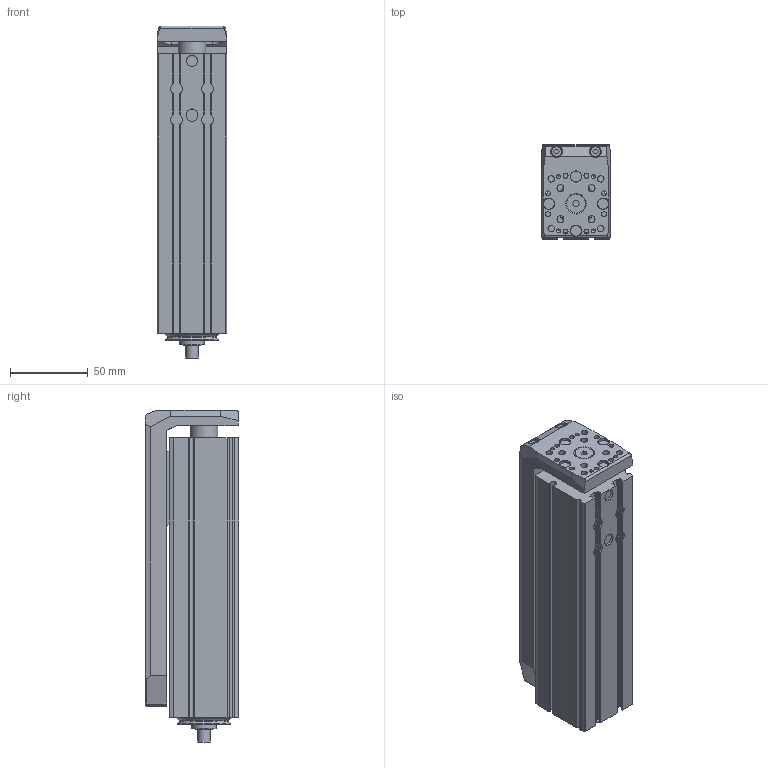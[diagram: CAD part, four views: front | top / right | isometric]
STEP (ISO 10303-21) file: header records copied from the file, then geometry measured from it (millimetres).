
FILE_DESCRIPTION(/* description */ ('STEP AP214'),/* implementation_level */ '2;1');
FILE_NAME(/* name */ 'MSCE 45 1010 100(0)',/* time_stamp */ '2023-10-09T11:31:31+02:00',/* author */ ('License CC BY-ND 4.0'),/* organization */ ('CADENAS'),/* preprocessor_version */ 'ST-DEVELOPER v19.3',/* originating_system */ 'PARTsolutions',/* authorisation */ ' ');
FILE_SCHEMA (('AUTOMOTIVE_DESIGN {1 0 10303 214 3 1 1}'));
Length unit declared in the file: millimetre
Products named in the file (3): MSCE 45 1010 100(0); 45(100)_prp; 45(100)_msce
Assembly tree (2 placements, depth 2):
  MSCE 45 1010 100(0)
    45(100)_prp
    45(100)_msce
Bounding box: 45 x 60.5 x 214 mm (x, y, z)
Volume: 400488.7 mm3; surface area: 112973.2 mm2
Topology: 2 solids, 2 shells, 436 faces, 1125 edges, 741 vertices
Faces by surface type: plane 208, cylinder 198, cone 23, torus 7
Full cylindrical faces by diameter (mm): 2.459 x8, 3.2 x8, 3.242 x8, 4 x2, 4.134 x4, 4.5 x4, 6 x8, 7 x7, 7.5 x4, 7.6 x2, 8 x1, 12 x1, 16 x1, 18 x2, 24 x1, 24.5 x1, 34 x2, 37.5 x2
Entity records: 14172 total; most frequent: CARTESIAN_POINT 2561, DIRECTION 2180, ORIENTED_EDGE 2034, EDGE_CURVE 1017, AXIS2_PLACEMENT_3D 825, VERTEX_POINT 729, FACE_BOUND 612, EDGE_LOOP 608
